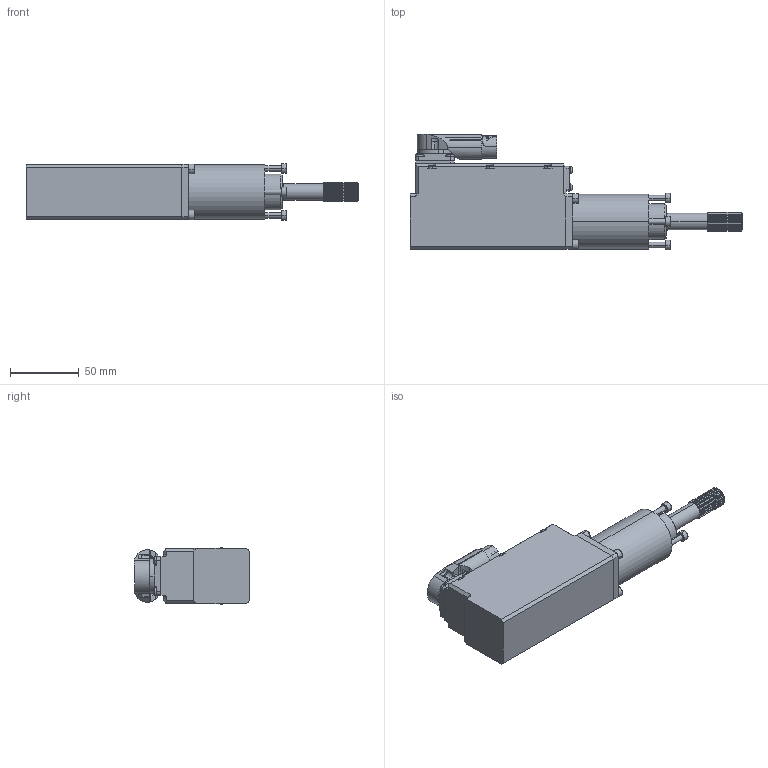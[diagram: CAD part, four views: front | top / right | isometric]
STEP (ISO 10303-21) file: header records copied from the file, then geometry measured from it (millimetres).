
FILE_DESCRIPTION (( 'STEP AP203' ), '1' );
FILE_NAME ('70121594_KSX1025ZF25.STEP', '2020-01-15T11:17:24', ( 'admin' ), ( '' ), 'SwSTEP 2.0', 'SolidWorks 2017', '' );
FILE_SCHEMA (( 'CONFIG_CONTROL_DESIGN' ));
Length unit declared in the file: millimetre
Products named in the file (8): 70111000; 70111180_2; 70111180; 70111180_Pos_vorne; 70111000_KSX1_Stecker_vorne; 70111011; 70111024; 70121594_KSX1025ZF25
Assembly tree (7 placements, depth 4):
  70121594_KSX1025ZF25
    70111000_KSX1_Stecker_vorne
      70111000
      70111180_Pos_vorne
        70111180_2
        70111180
    70111011
    70111024
Bounding box: 240.8 x 83.9 x 41 mm (x, y, z)
Volume: 389753.3 mm3; surface area: 68861.4 mm2
Topology: 5 solids, 7 shells, 1558 faces, 3966 edges, 2503 vertices
Faces by surface type: cylinder 689, plane 440, cone 235, torus 103, sphere 48, bspline 43
Entity records: 51586 total; most frequent: CARTESIAN_POINT 13964, ORIENTED_EDGE 7804, DIRECTION 7634, EDGE_CURVE 3902, AXIS2_PLACEMENT_3D 3076, VERTEX_POINT 2503, EDGE_LOOP 1715, FACE_OUTER_BOUND 1558
